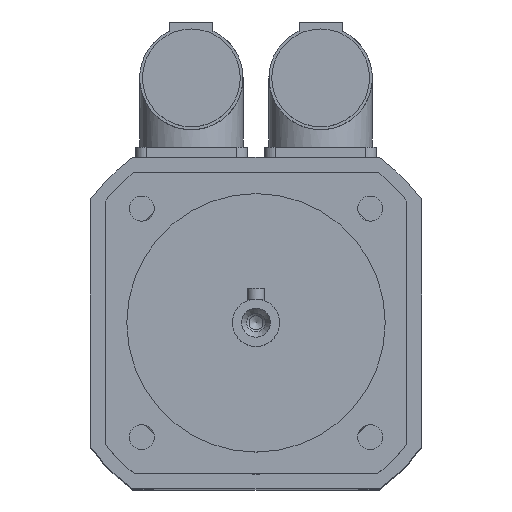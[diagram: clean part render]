
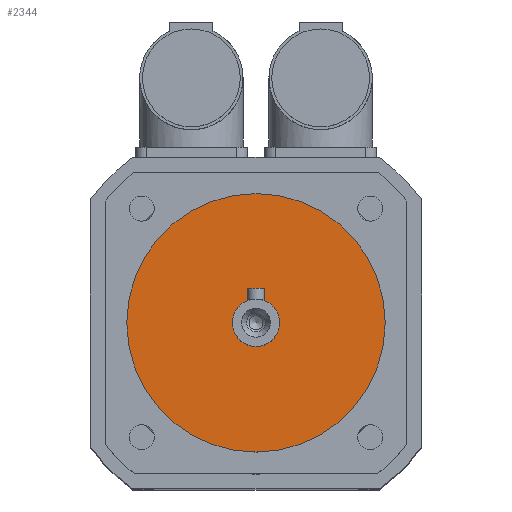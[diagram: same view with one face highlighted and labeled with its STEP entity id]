
A CAD part, top view. The second image highlights one B-rep face of the part: STEP entity #2344.
In plain terms, the highlighted planar face has unit normal (0, 0, 1).
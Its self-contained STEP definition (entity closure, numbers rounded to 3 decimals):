
#472=PLANE('',#2526);
#587=FACE_BOUND('',#805,.T.);
#653=FACE_OUTER_BOUND('',#804,.T.);
#804=EDGE_LOOP('',(#1839));
#805=EDGE_LOOP('',(#1840));
#951=CIRCLE('',#2525,5.5);
#952=CIRCLE('',#2527,30.);
#1114=VERTEX_POINT('',#3730);
#1115=VERTEX_POINT('',#3733);
#1385=EDGE_CURVE('',#1114,#1114,#951,.T.);
#1386=EDGE_CURVE('',#1115,#1115,#952,.T.);
#1839=ORIENTED_EDGE('',*,*,#1386,.F.);
#1840=ORIENTED_EDGE('',*,*,#1385,.T.);
#2344=ADVANCED_FACE('',(#653,#587),#472,.T.);
#2525=AXIS2_PLACEMENT_3D('',#3731,#2946,#2947);
#2526=AXIS2_PLACEMENT_3D('',#3732,#2948,#2949);
#2527=AXIS2_PLACEMENT_3D('',#3734,#2950,#2951);
#2946=DIRECTION('center_axis',(0.,0.,-1.));
#2947=DIRECTION('ref_axis',(1.,0.,0.));
#2948=DIRECTION('center_axis',(0.,0.,1.));
#2949=DIRECTION('ref_axis',(1.,0.,0.));
#2950=DIRECTION('center_axis',(0.,0.,-1.));
#2951=DIRECTION('ref_axis',(1.,0.,0.));
#3730=CARTESIAN_POINT('',(0.,5.5,116.5));
#3731=CARTESIAN_POINT('Origin',(0.,0.,116.5));
#3732=CARTESIAN_POINT('Origin',(0.,30.,116.5));
#3733=CARTESIAN_POINT('',(0.,30.,116.5));
#3734=CARTESIAN_POINT('Origin',(0.,0.,116.5));
